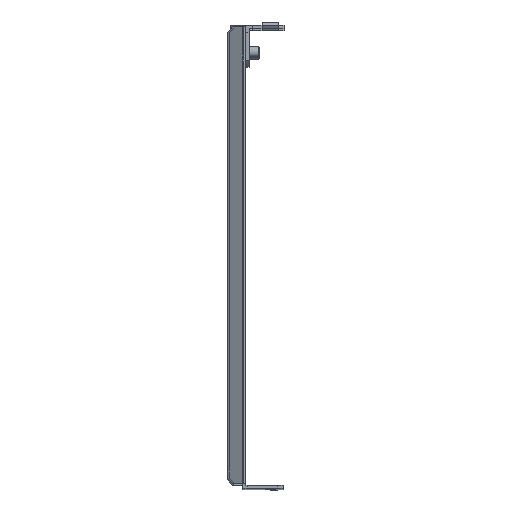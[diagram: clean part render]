
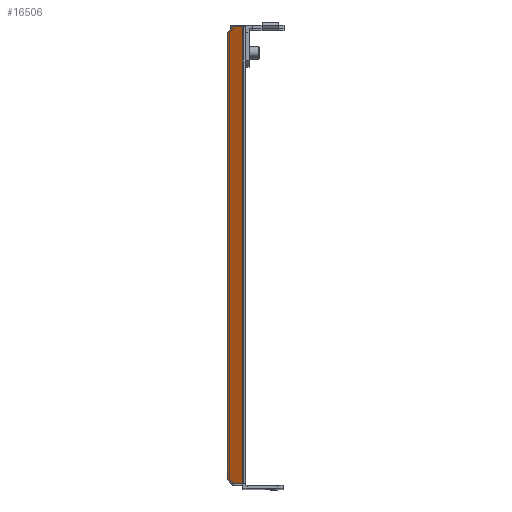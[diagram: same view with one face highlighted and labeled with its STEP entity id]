
A CAD part, top view. The second image highlights one B-rep face of the part: STEP entity #16506.
In plain terms, the highlighted planar face has unit normal (-0.5, 0, 0.866).
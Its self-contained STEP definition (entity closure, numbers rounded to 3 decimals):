
#64 = VECTOR ( 'NONE', #14818, 1000. ) ;
#510 = EDGE_CURVE ( 'NONE', #11830, #16820, #15365, .T. ) ;
#841 = DIRECTION ( 'NONE',  ( 0.5, 0., -0.866 ) ) ;
#1342 = DIRECTION ( 'NONE',  ( -0.866, 0., -0.5 ) ) ;
#1564 = ORIENTED_EDGE ( 'NONE', *, *, #7519, .T. ) ;
#2015 = DIRECTION ( 'NONE',  ( 0.866, 0., 0.5 ) ) ;
#2060 = CARTESIAN_POINT ( 'NONE',  ( -8.428, 0., 295.38 ) ) ;
#2102 = CARTESIAN_POINT ( 'NONE',  ( -129.26, 248., 225.618 ) ) ;
#2209 = ORIENTED_EDGE ( 'NONE', *, *, #3182, .F. ) ;
#2517 = ORIENTED_EDGE ( 'NONE', *, *, #6194, .T. ) ;
#3146 = VECTOR ( 'NONE', #17994, 1000. ) ;
#3182 = EDGE_CURVE ( 'NONE', #6719, #16820, #4772, .T. ) ;
#3296 = LINE ( 'NONE', #11702, #64 ) ;
#3389 = ORIENTED_EDGE ( 'NONE', *, *, #13380, .T. ) ;
#3845 = CARTESIAN_POINT ( 'NONE',  ( -8.428, 248., 295.38 ) ) ;
#3938 = ORIENTED_EDGE ( 'NONE', *, *, #9112, .T. ) ;
#4292 = DIRECTION ( 'NONE',  ( 0.866, 0., 0.5 ) ) ;
#4600 = ORIENTED_EDGE ( 'NONE', *, *, #14253, .T. ) ;
#4772 = LINE ( 'NONE', #2102, #16797 ) ;
#4814 = EDGE_LOOP ( 'NONE', ( #1564, #15778, #2209, #17830, #2517, #4600, #3389, #3938 ) ) ;
#5162 = CARTESIAN_POINT ( 'NONE',  ( -11.026, 245., 293.88 ) ) ;
#5294 = CARTESIAN_POINT ( 'NONE',  ( -11.026, 0., 293.88 ) ) ;
#5465 = VECTOR ( 'NONE', #1342, 1000. ) ;
#5666 = LINE ( 'NONE', #16624, #16550 ) ;
#5899 = VERTEX_POINT ( 'NONE', #3845 ) ;
#5997 = CARTESIAN_POINT ( 'NONE',  ( -2.768, 0., 298.648 ) ) ;
#6194 = EDGE_CURVE ( 'NONE', #5899, #13421, #3296, .T. ) ;
#6442 = PLANE ( 'NONE',  #16109 ) ;
#6613 = DIRECTION ( 'NONE',  ( 0.612, -0.707, 0.354 ) ) ;
#6719 = VERTEX_POINT ( 'NONE', #8457 ) ;
#6872 = CARTESIAN_POINT ( 'NONE',  ( -2.768, 248., 298.648 ) ) ;
#7519 = EDGE_CURVE ( 'NONE', #8125, #11830, #5666, .T. ) ;
#7552 = FACE_OUTER_BOUND ( 'NONE', #4814, .T. ) ;
#7916 = LINE ( 'NONE', #12090, #17737 ) ;
#8092 = LINE ( 'NONE', #14951, #15992 ) ;
#8125 = VERTEX_POINT ( 'NONE', #15155 ) ;
#8457 = CARTESIAN_POINT ( 'NONE',  ( -5.25, 248., 297.215 ) ) ;
#8597 = EDGE_CURVE ( 'NONE', #6719, #5899, #16817, .T. ) ;
#9112 = EDGE_CURVE ( 'NONE', #15107, #8125, #7916, .T. ) ;
#9215 = VERTEX_POINT ( 'NONE', #9482 ) ;
#9482 = CARTESIAN_POINT ( 'NONE',  ( -11.026, 3., 293.88 ) ) ;
#9555 = VECTOR ( 'NONE', #17637, 1000. ) ;
#11702 = CARTESIAN_POINT ( 'NONE',  ( -11.026, 245., 293.88 ) ) ;
#11830 = VERTEX_POINT ( 'NONE', #14157 ) ;
#12090 = CARTESIAN_POINT ( 'NONE',  ( -129.26, 0., 225.618 ) ) ;
#13211 = DIRECTION ( 'NONE',  ( 0.866, 0., 0.5 ) ) ;
#13380 = EDGE_CURVE ( 'NONE', #9215, #15107, #8092, .T. ) ;
#13421 = VERTEX_POINT ( 'NONE', #5162 ) ;
#14157 = CARTESIAN_POINT ( 'NONE',  ( -2.768, 0., 298.648 ) ) ;
#14253 = EDGE_CURVE ( 'NONE', #13421, #9215, #17816, .T. ) ;
#14498 = DIRECTION ( 'NONE',  ( 0., -1., 0. ) ) ;
#14818 = DIRECTION ( 'NONE',  ( -0.612, -0.707, -0.354 ) ) ;
#14866 = CARTESIAN_POINT ( 'NONE',  ( -129.26, 0., 225.618 ) ) ;
#14951 = CARTESIAN_POINT ( 'NONE',  ( -8.428, 0., 295.38 ) ) ;
#15107 = VERTEX_POINT ( 'NONE', #2060 ) ;
#15155 = CARTESIAN_POINT ( 'NONE',  ( -5.25, 0., 297.215 ) ) ;
#15365 = LINE ( 'NONE', #5997, #3146 ) ;
#15778 = ORIENTED_EDGE ( 'NONE', *, *, #510, .T. ) ;
#15992 = VECTOR ( 'NONE', #6613, 1000. ) ;
#16109 = AXIS2_PLACEMENT_3D ( 'NONE', #14866, #841, #14498 ) ;
#16506 = ADVANCED_FACE ( 'NONE', ( #7552 ), #6442, .F. ) ;
#16550 = VECTOR ( 'NONE', #4292, 1000. ) ;
#16624 = CARTESIAN_POINT ( 'NONE',  ( -5.25, 0., 297.215 ) ) ;
#16797 = VECTOR ( 'NONE', #2015, 1000. ) ;
#16817 = LINE ( 'NONE', #18003, #5465 ) ;
#16820 = VERTEX_POINT ( 'NONE', #6872 ) ;
#17637 = DIRECTION ( 'NONE',  ( 0., -1., 0. ) ) ;
#17737 = VECTOR ( 'NONE', #13211, 1000. ) ;
#17816 = LINE ( 'NONE', #5294, #9555 ) ;
#17830 = ORIENTED_EDGE ( 'NONE', *, *, #8597, .T. ) ;
#17994 = DIRECTION ( 'NONE',  ( 0., 1., 0. ) ) ;
#18003 = CARTESIAN_POINT ( 'NONE',  ( -129.26, 248., 225.618 ) ) ;
